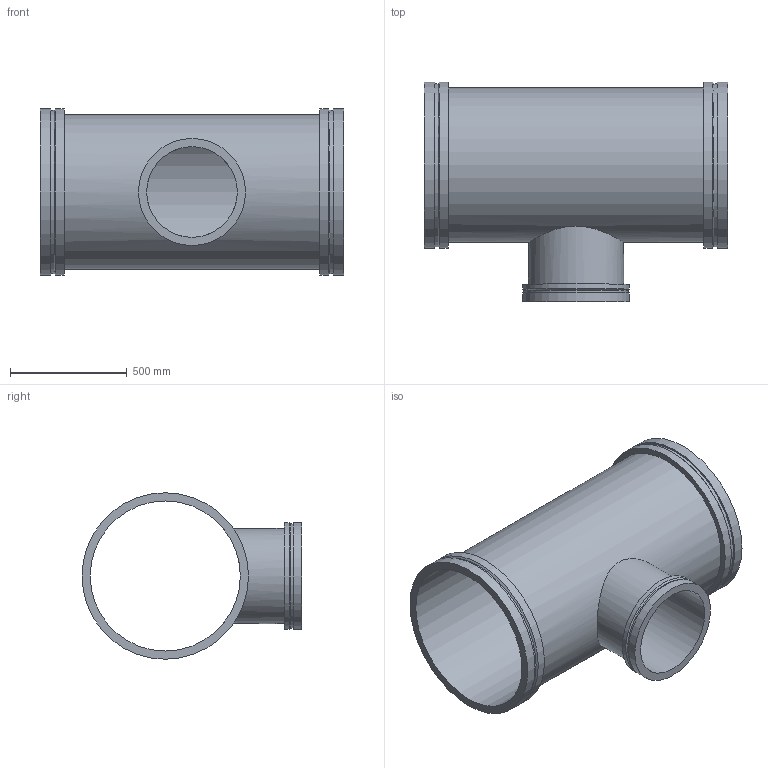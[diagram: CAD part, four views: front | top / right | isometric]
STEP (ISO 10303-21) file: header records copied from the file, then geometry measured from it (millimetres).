
FILE_DESCRIPTION(/* description */ ('VIC REDUCING TEE No W025 VR','CAx-IF Rec.Pracs.---Representation and Presentation of Product Manufacturing Information (PMI)---4.0---2014-10-13'),/* implementation_level */ '2;1');
FILE_NAME(/* name */ 'C:\Users\kkamble\AppData\Roaming\Autodesk\ApplicationPlugins\Back Up\Victaulic_Vic-Ring_Tee Reducing_No W25 VR (AGR)\Victaulic_Vic-Ring_Tee Reducing_No W25 VR (AGR)_26.0x16.0 (650x400).stp',/* time_stamp */ '2020-09-10T11:53:25+05:00',/* author */ ('mchristi'),/* organization */ ('Victaulic'),/* preprocessor_version */ 'ST-DEVELOPER v17.2',/* originating_system */ 'Autodesk Inventor 2019',/* authorisation */ '');
FILE_SCHEMA (('AP242_MANAGED_MODEL_BASED_3D_ENGINEERING_MIM_LF { 1 0 10303 442 1 1 4 }'));
Length unit declared in the file: inch
Products named in the file (1): W25 VR-26.0x16.0
Bounding box: 1295.4 x 939.8 x 711.2 mm (x, y, z)
Volume: 40542131 mm3; surface area: 6204630.5 mm2
Topology: 1 solids, 1 shells, 25 faces, 68 edges, 52 vertices
Faces by surface type: cylinder 13, plane 9, cone 3
Full cylindrical faces by diameter (mm): 387.35 x1, 406.4 x1, 444.5 x1, 457.2 x2, 641.35 x1, 660.4 x1, 696.722 x2, 711.2 x4
Entity records: 1203 total; most frequent: CARTESIAN_POINT 359, DIRECTION 190, ORIENTED_EDGE 136, AXIS2_PLACEMENT_3D 87, EDGE_CURVE 68, VERTEX_POINT 52, CIRCLE 48, EDGE_LOOP 36
